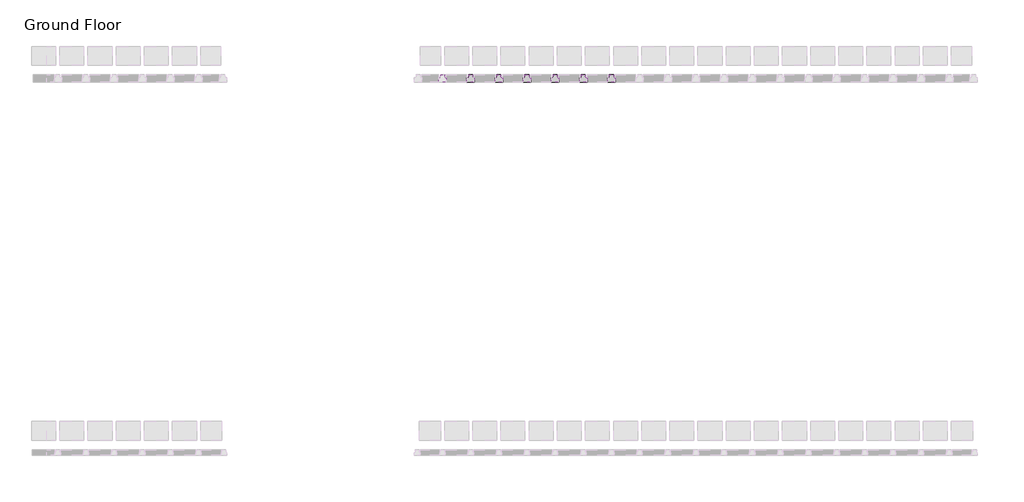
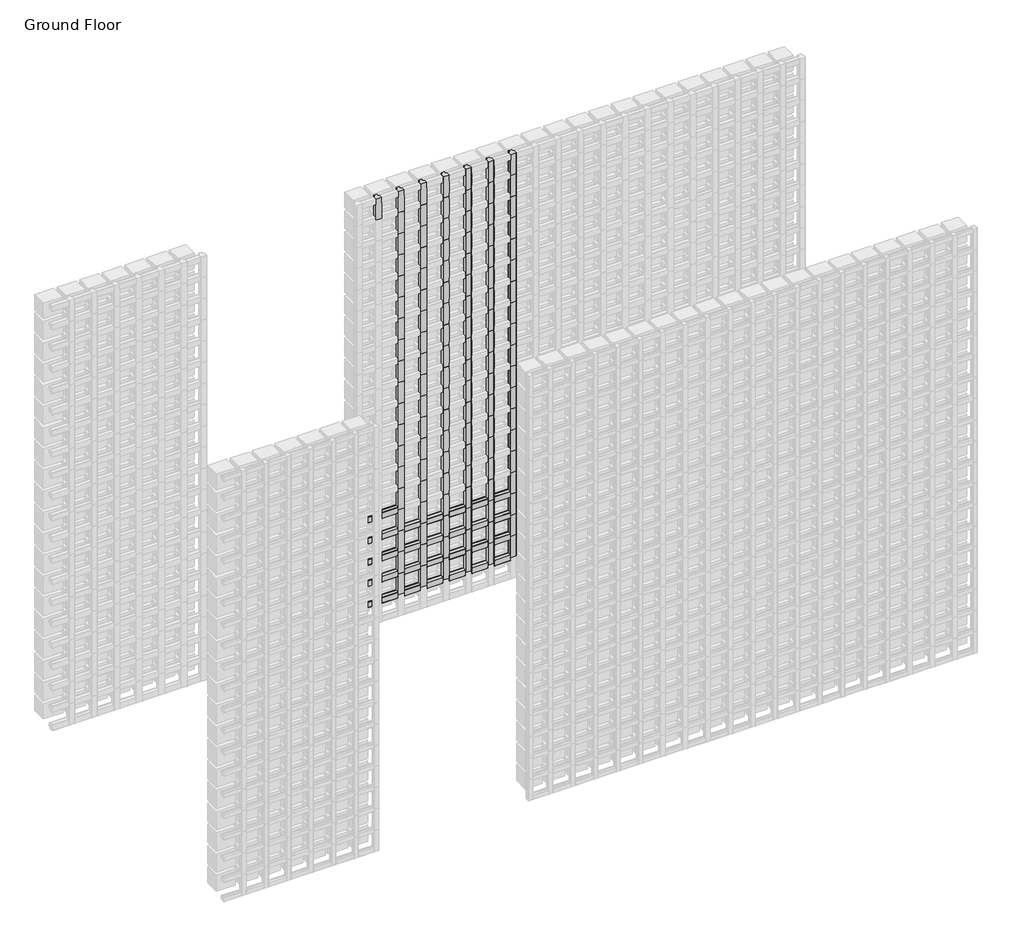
# One storey, part 119 of 350: 145 members.
"""IFC4 building model written with IfcOpenShell, lengths in millimetres."""

from ifc_helpers import new_model, si_unit, origin, place, context, project, spatial, transform, mapped, element, save
from components import rectangular_mullion_84e0df2e, rectangular_mullion_196cc38a, rectangular_mullion_c1c7f7ba

model = new_model("IFC4")

# Units and contexts
model_context = context("Model", 3, world=origin())
ifc_project = project(units=[si_unit("LENGTHUNIT", "METRE", prefix="MILLI")], contexts=[model_context])

# Site, building, storey
site = spatial("IfcSite", under=ifc_project)
building = spatial("IfcBuilding", under=site)
storey = spatial("IfcBuildingStorey", under=building, Name="Ground Floor", Elevation=0.0)

# Members
placement = place(None, origin())
rectangular_mullion_shape = rectangular_mullion_84e0df2e(model_context)
element("IfcMember", 1, ObjectType="Rectangular Mullion : Batten_Timber_Modinex_Austratus_Grid_Fin_40x40_Blackbutt", at=placement, inside=storey, context=model_context, shape_type="MappedRepresentation", body=[
    mapped(rectangular_mullion_shape, transform((6216.4361642, 44968.2978302, 150.0), x_axis=(1.0, 0.0, 0.0), y_axis=(0.0, -1.0, 0.0), z_axis=(0.0, 0.0, -1.0))),
])
element("IfcMember", 2, ObjectType="Rectangular Mullion : Batten_Timber_Modinex_Austratus_Grid_Fin_40x40_Blackbutt", at=placement, inside=storey, context=model_context, shape_type="MappedRepresentation", body=[
    mapped(rectangular_mullion_shape, transform((6216.4361642, 44968.2978302, 300.0), x_axis=(1.0, 0.0, 0.0), y_axis=(0.0, -1.0, 0.0), z_axis=(0.0, 0.0, -1.0))),
])
element("IfcMember", 3, ObjectType="Rectangular Mullion : Batten_Timber_Modinex_Austratus_Grid_Fin_40x40_Blackbutt", at=placement, inside=storey, context=model_context, shape_type="MappedRepresentation", body=[
    mapped(rectangular_mullion_shape, transform((6216.4361642, 44968.2978302, 450.0), x_axis=(1.0, 0.0, 0.0), y_axis=(0.0, -1.0, 0.0), z_axis=(0.0, 0.0, -1.0))),
])
element("IfcMember", 4, ObjectType="Rectangular Mullion : Batten_Timber_Modinex_Austratus_Grid_Fin_40x40_Blackbutt", at=placement, inside=storey, context=model_context, shape_type="MappedRepresentation", body=[
    mapped(rectangular_mullion_shape, transform((6216.4361642, 44968.2978302, 600.0), x_axis=(1.0, 0.0, 0.0), y_axis=(0.0, -1.0, 0.0), z_axis=(0.0, 0.0, -1.0))),
])
element("IfcMember", 5, ObjectType="Rectangular Mullion : Batten_Timber_Modinex_Austratus_Grid_Fin_40x40_Blackbutt", at=placement, inside=storey, context=model_context, shape_type="MappedRepresentation", body=[
    mapped(rectangular_mullion_shape, transform((6216.4361642, 44968.2978302, 750.0), x_axis=(1.0, 0.0, 0.0), y_axis=(0.0, -1.0, 0.0), z_axis=(0.0, 0.0, -1.0))),
])
element("IfcMember", 6, ObjectType="Rectangular Mullion : Batten_Timber_Modinex_Austratus_Grid_Fin_40x40_Blackbutt", at=placement, inside=storey, context=model_context, shape_type="MappedRepresentation", body=[
    mapped(rectangular_mullion_shape, transform((6216.4361642, 44968.2978302, 900.0), x_axis=(1.0, 0.0, 0.0), y_axis=(0.0, -1.0, 0.0), z_axis=(0.0, 0.0, -1.0))),
])
element("IfcMember", 7, ObjectType="Rectangular Mullion : Batten_Timber_Modinex_Austratus_Grid_Fin_40x40_Blackbutt", at=placement, inside=storey, context=model_context, shape_type="MappedRepresentation", body=[
    mapped(rectangular_mullion_shape, transform((6216.4361642, 44968.2978302, 1050.0), x_axis=(1.0, 0.0, 0.0), y_axis=(0.0, -1.0, 0.0), z_axis=(0.0, 0.0, -1.0))),
])
element("IfcMember", 8, ObjectType="Rectangular Mullion : Batten_Timber_Modinex_Austratus_Grid_Fin_40x40_Blackbutt", at=placement, inside=storey, context=model_context, shape_type="MappedRepresentation", body=[
    mapped(rectangular_mullion_shape, transform((6216.4361642, 44968.2978302, 1200.0), x_axis=(1.0, 0.0, 0.0), y_axis=(0.0, -1.0, 0.0), z_axis=(0.0, 0.0, -1.0))),
])
element("IfcMember", 9, ObjectType="Rectangular Mullion : Batten_Timber_Modinex_Austratus_Grid_Fin_40x40_Blackbutt", at=placement, inside=storey, context=model_context, shape_type="MappedRepresentation", body=[
    mapped(rectangular_mullion_shape, transform((6216.4361642, 44968.2978302, 1350.0), x_axis=(1.0, 0.0, 0.0), y_axis=(0.0, -1.0, 0.0), z_axis=(0.0, 0.0, -1.0))),
])
element("IfcMember", 10, ObjectType="Rectangular Mullion : Batten_Timber_Modinex_Austratus_Grid_Fin_40x40_Blackbutt", at=placement, inside=storey, context=model_context, shape_type="MappedRepresentation", body=[
    mapped(rectangular_mullion_shape, transform((6216.4361642, 44968.2978302, 1500.0), x_axis=(1.0, 0.0, 0.0), y_axis=(0.0, -1.0, 0.0), z_axis=(0.0, 0.0, -1.0))),
])
element("IfcMember", 11, ObjectType="Rectangular Mullion : Batten_Timber_Modinex_Austratus_Grid_Fin_40x40_Blackbutt", at=placement, inside=storey, context=model_context, shape_type="MappedRepresentation", body=[
    mapped(rectangular_mullion_shape, transform((6216.4361642, 44968.2978302, 1650.0), x_axis=(1.0, 0.0, 0.0), y_axis=(0.0, -1.0, 0.0), z_axis=(0.0, 0.0, -1.0))),
])
element("IfcMember", 12, ObjectType="Rectangular Mullion : Batten_Timber_Modinex_Austratus_Grid_Fin_40x40_Blackbutt", at=placement, inside=storey, context=model_context, shape_type="MappedRepresentation", body=[
    mapped(rectangular_mullion_shape, transform((6216.4361642, 44968.2978302, 1800.0), x_axis=(1.0, 0.0, 0.0), y_axis=(0.0, -1.0, 0.0), z_axis=(0.0, 0.0, -1.0))),
])
element("IfcMember", 13, ObjectType="Rectangular Mullion : Batten_Timber_Modinex_Austratus_Grid_Fin_40x40_Blackbutt", at=placement, inside=storey, context=model_context, shape_type="MappedRepresentation", body=[
    mapped(rectangular_mullion_shape, transform((6216.4361642, 44968.2978302, 1950.0), x_axis=(1.0, 0.0, 0.0), y_axis=(0.0, -1.0, 0.0), z_axis=(0.0, 0.0, -1.0))),
])
element("IfcMember", 14, ObjectType="Rectangular Mullion : Batten_Timber_Modinex_Austratus_Grid_Fin_40x40_Blackbutt", at=placement, inside=storey, context=model_context, shape_type="MappedRepresentation", body=[
    mapped(rectangular_mullion_shape, transform((6216.4361642, 44968.2978302, 2100.0), x_axis=(1.0, 0.0, 0.0), y_axis=(0.0, -1.0, 0.0), z_axis=(0.0, 0.0, -1.0))),
])
element("IfcMember", 15, ObjectType="Rectangular Mullion : Batten_Timber_Modinex_Austratus_Grid_Fin_40x40_Blackbutt", at=placement, inside=storey, context=model_context, shape_type="MappedRepresentation", body=[
    mapped(rectangular_mullion_shape, transform((6216.4361642, 44968.2978302, 2250.0), x_axis=(1.0, 0.0, 0.0), y_axis=(0.0, -1.0, 0.0), z_axis=(0.0, 0.0, -1.0))),
])
element("IfcMember", 16, ObjectType="Rectangular Mullion : Batten_Timber_Modinex_Austratus_Grid_Fin_40x40_Blackbutt", at=placement, inside=storey, context=model_context, shape_type="MappedRepresentation", body=[
    mapped(rectangular_mullion_shape, transform((6216.4361642, 44968.2978302, 2400.0), x_axis=(1.0, 0.0, 0.0), y_axis=(0.0, -1.0, 0.0), z_axis=(0.0, 0.0, -1.0))),
])
element("IfcMember", 17, ObjectType="Rectangular Mullion : Batten_Timber_Modinex_Austratus_Grid_Fin_40x40_Blackbutt", at=placement, inside=storey, context=model_context, shape_type="MappedRepresentation", body=[
    mapped(rectangular_mullion_shape, transform((6216.4361642, 44968.2978302, 2550.0), x_axis=(1.0, 0.0, 0.0), y_axis=(0.0, -1.0, 0.0), z_axis=(0.0, 0.0, -1.0))),
])
element("IfcMember", 18, ObjectType="Rectangular Mullion : Batten_Timber_Modinex_Austratus_Grid_Fin_40x40_Blackbutt", at=placement, inside=storey, context=model_context, shape_type="MappedRepresentation", body=[
    mapped(rectangular_mullion_shape, transform((6216.4361642, 44968.2978302, 2700.0), x_axis=(1.0, 0.0, 0.0), y_axis=(0.0, -1.0, 0.0), z_axis=(0.0, 0.0, -1.0))),
])
element("IfcMember", 19, ObjectType="Rectangular Mullion : Batten_Timber_Modinex_Austratus_Grid_Fin_40x40_Blackbutt", at=placement, inside=storey, context=model_context, shape_type="MappedRepresentation", body=[
    mapped(rectangular_mullion_shape, transform((6366.4361642, 44968.2978302, 150.0), x_axis=(1.0, 0.0, 0.0), y_axis=(0.0, -1.0, 0.0), z_axis=(0.0, 0.0, -1.0))),
])
element("IfcMember", 20, ObjectType="Rectangular Mullion : Batten_Timber_Modinex_Austratus_Grid_Fin_40x40_Blackbutt", at=placement, inside=storey, context=model_context, shape_type="MappedRepresentation", body=[
    mapped(rectangular_mullion_shape, transform((6366.4361642, 44968.2978302, 300.0), x_axis=(1.0, 0.0, 0.0), y_axis=(0.0, -1.0, 0.0), z_axis=(0.0, 0.0, -1.0))),
])
element("IfcMember", 21, ObjectType="Rectangular Mullion : Batten_Timber_Modinex_Austratus_Grid_Fin_40x40_Blackbutt", at=placement, inside=storey, context=model_context, shape_type="MappedRepresentation", body=[
    mapped(rectangular_mullion_shape, transform((6366.4361642, 44968.2978302, 450.0), x_axis=(1.0, 0.0, 0.0), y_axis=(0.0, -1.0, 0.0), z_axis=(0.0, 0.0, -1.0))),
])
element("IfcMember", 22, ObjectType="Rectangular Mullion : Batten_Timber_Modinex_Austratus_Grid_Fin_40x40_Blackbutt", at=placement, inside=storey, context=model_context, shape_type="MappedRepresentation", body=[
    mapped(rectangular_mullion_shape, transform((6366.4361642, 44968.2978302, 600.0), x_axis=(1.0, 0.0, 0.0), y_axis=(0.0, -1.0, 0.0), z_axis=(0.0, 0.0, -1.0))),
])
element("IfcMember", 23, ObjectType="Rectangular Mullion : Batten_Timber_Modinex_Austratus_Grid_Fin_40x40_Blackbutt", at=placement, inside=storey, context=model_context, shape_type="MappedRepresentation", body=[
    mapped(rectangular_mullion_shape, transform((6366.4361642, 44968.2978302, 750.0), x_axis=(1.0, 0.0, 0.0), y_axis=(0.0, -1.0, 0.0), z_axis=(0.0, 0.0, -1.0))),
])
element("IfcMember", 24, ObjectType="Rectangular Mullion : Batten_Timber_Modinex_Austratus_Grid_Fin_40x40_Blackbutt", at=placement, inside=storey, context=model_context, shape_type="MappedRepresentation", body=[
    mapped(rectangular_mullion_shape, transform((6366.4361642, 44968.2978302, 900.0), x_axis=(1.0, 0.0, 0.0), y_axis=(0.0, -1.0, 0.0), z_axis=(0.0, 0.0, -1.0))),
])
element("IfcMember", 25, ObjectType="Rectangular Mullion : Batten_Timber_Modinex_Austratus_Grid_Fin_40x40_Blackbutt", at=placement, inside=storey, context=model_context, shape_type="MappedRepresentation", body=[
    mapped(rectangular_mullion_shape, transform((6366.4361642, 44968.2978302, 1050.0), x_axis=(1.0, 0.0, 0.0), y_axis=(0.0, -1.0, 0.0), z_axis=(0.0, 0.0, -1.0))),
])
element("IfcMember", 26, ObjectType="Rectangular Mullion : Batten_Timber_Modinex_Austratus_Grid_Fin_40x40_Blackbutt", at=placement, inside=storey, context=model_context, shape_type="MappedRepresentation", body=[
    mapped(rectangular_mullion_shape, transform((6366.4361642, 44968.2978302, 1200.0), x_axis=(1.0, 0.0, 0.0), y_axis=(0.0, -1.0, 0.0), z_axis=(0.0, 0.0, -1.0))),
])
element("IfcMember", 27, ObjectType="Rectangular Mullion : Batten_Timber_Modinex_Austratus_Grid_Fin_40x40_Blackbutt", at=placement, inside=storey, context=model_context, shape_type="MappedRepresentation", body=[
    mapped(rectangular_mullion_shape, transform((6366.4361642, 44968.2978302, 1350.0), x_axis=(1.0, 0.0, 0.0), y_axis=(0.0, -1.0, 0.0), z_axis=(0.0, 0.0, -1.0))),
])
element("IfcMember", 28, ObjectType="Rectangular Mullion : Batten_Timber_Modinex_Austratus_Grid_Fin_40x40_Blackbutt", at=placement, inside=storey, context=model_context, shape_type="MappedRepresentation", body=[
    mapped(rectangular_mullion_shape, transform((6366.4361642, 44968.2978302, 1500.0), x_axis=(1.0, 0.0, 0.0), y_axis=(0.0, -1.0, 0.0), z_axis=(0.0, 0.0, -1.0))),
])
element("IfcMember", 29, ObjectType="Rectangular Mullion : Batten_Timber_Modinex_Austratus_Grid_Fin_40x40_Blackbutt", at=placement, inside=storey, context=model_context, shape_type="MappedRepresentation", body=[
    mapped(rectangular_mullion_shape, transform((6366.4361642, 44968.2978302, 1650.0), x_axis=(1.0, 0.0, 0.0), y_axis=(0.0, -1.0, 0.0), z_axis=(0.0, 0.0, -1.0))),
])
element("IfcMember", 30, ObjectType="Rectangular Mullion : Batten_Timber_Modinex_Austratus_Grid_Fin_40x40_Blackbutt", at=placement, inside=storey, context=model_context, shape_type="MappedRepresentation", body=[
    mapped(rectangular_mullion_shape, transform((6366.4361642, 44968.2978302, 1800.0), x_axis=(1.0, 0.0, 0.0), y_axis=(0.0, -1.0, 0.0), z_axis=(0.0, 0.0, -1.0))),
])
element("IfcMember", 31, ObjectType="Rectangular Mullion : Batten_Timber_Modinex_Austratus_Grid_Fin_40x40_Blackbutt", at=placement, inside=storey, context=model_context, shape_type="MappedRepresentation", body=[
    mapped(rectangular_mullion_shape, transform((6366.4361642, 44968.2978302, 1950.0), x_axis=(1.0, 0.0, 0.0), y_axis=(0.0, -1.0, 0.0), z_axis=(0.0, 0.0, -1.0))),
])
element("IfcMember", 32, ObjectType="Rectangular Mullion : Batten_Timber_Modinex_Austratus_Grid_Fin_40x40_Blackbutt", at=placement, inside=storey, context=model_context, shape_type="MappedRepresentation", body=[
    mapped(rectangular_mullion_shape, transform((6366.4361642, 44968.2978302, 2100.0), x_axis=(1.0, 0.0, 0.0), y_axis=(0.0, -1.0, 0.0), z_axis=(0.0, 0.0, -1.0))),
])
element("IfcMember", 33, ObjectType="Rectangular Mullion : Batten_Timber_Modinex_Austratus_Grid_Fin_40x40_Blackbutt", at=placement, inside=storey, context=model_context, shape_type="MappedRepresentation", body=[
    mapped(rectangular_mullion_shape, transform((6366.4361642, 44968.2978302, 2250.0), x_axis=(1.0, 0.0, 0.0), y_axis=(0.0, -1.0, 0.0), z_axis=(0.0, 0.0, -1.0))),
])
element("IfcMember", 34, ObjectType="Rectangular Mullion : Batten_Timber_Modinex_Austratus_Grid_Fin_40x40_Blackbutt", at=placement, inside=storey, context=model_context, shape_type="MappedRepresentation", body=[
    mapped(rectangular_mullion_shape, transform((6366.4361642, 44968.2978302, 2400.0), x_axis=(1.0, 0.0, 0.0), y_axis=(0.0, -1.0, 0.0), z_axis=(0.0, 0.0, -1.0))),
])
element("IfcMember", 35, ObjectType="Rectangular Mullion : Batten_Timber_Modinex_Austratus_Grid_Fin_40x40_Blackbutt", at=placement, inside=storey, context=model_context, shape_type="MappedRepresentation", body=[
    mapped(rectangular_mullion_shape, transform((6366.4361642, 44968.2978302, 2550.0), x_axis=(1.0, 0.0, 0.0), y_axis=(0.0, -1.0, 0.0), z_axis=(0.0, 0.0, -1.0))),
])
element("IfcMember", 36, ObjectType="Rectangular Mullion : Batten_Timber_Modinex_Austratus_Grid_Fin_40x40_Blackbutt", at=placement, inside=storey, context=model_context, shape_type="MappedRepresentation", body=[
    mapped(rectangular_mullion_shape, transform((6366.4361642, 44968.2978302, 2700.0), x_axis=(1.0, 0.0, 0.0), y_axis=(0.0, -1.0, 0.0), z_axis=(0.0, 0.0, -1.0))),
])
element("IfcMember", 37, ObjectType="Rectangular Mullion : Batten_Timber_Modinex_Austratus_Grid_Fin_40x40_Blackbutt", at=placement, inside=storey, context=model_context, shape_type="MappedRepresentation", body=[
    mapped(rectangular_mullion_shape, transform((6516.4361642, 44968.2978302, 150.0), x_axis=(1.0, 0.0, 0.0), y_axis=(0.0, -1.0, 0.0), z_axis=(0.0, 0.0, -1.0))),
])
element("IfcMember", 38, ObjectType="Rectangular Mullion : Batten_Timber_Modinex_Austratus_Grid_Fin_40x40_Blackbutt", at=placement, inside=storey, context=model_context, shape_type="MappedRepresentation", body=[
    mapped(rectangular_mullion_shape, transform((6516.4361642, 44968.2978302, 300.0), x_axis=(1.0, 0.0, 0.0), y_axis=(0.0, -1.0, 0.0), z_axis=(0.0, 0.0, -1.0))),
])
element("IfcMember", 39, ObjectType="Rectangular Mullion : Batten_Timber_Modinex_Austratus_Grid_Fin_40x40_Blackbutt", at=placement, inside=storey, context=model_context, shape_type="MappedRepresentation", body=[
    mapped(rectangular_mullion_shape, transform((6516.4361642, 44968.2978302, 450.0), x_axis=(1.0, 0.0, 0.0), y_axis=(0.0, -1.0, 0.0), z_axis=(0.0, 0.0, -1.0))),
])
element("IfcMember", 40, ObjectType="Rectangular Mullion : Batten_Timber_Modinex_Austratus_Grid_Fin_40x40_Blackbutt", at=placement, inside=storey, context=model_context, shape_type="MappedRepresentation", body=[
    mapped(rectangular_mullion_shape, transform((6516.4361642, 44968.2978302, 600.0), x_axis=(1.0, 0.0, 0.0), y_axis=(0.0, -1.0, 0.0), z_axis=(0.0, 0.0, -1.0))),
])
element("IfcMember", 41, ObjectType="Rectangular Mullion : Batten_Timber_Modinex_Austratus_Grid_Fin_40x40_Blackbutt", at=placement, inside=storey, context=model_context, shape_type="MappedRepresentation", body=[
    mapped(rectangular_mullion_shape, transform((6516.4361642, 44968.2978302, 750.0), x_axis=(1.0, 0.0, 0.0), y_axis=(0.0, -1.0, 0.0), z_axis=(0.0, 0.0, -1.0))),
])
element("IfcMember", 42, ObjectType="Rectangular Mullion : Batten_Timber_Modinex_Austratus_Grid_Fin_40x40_Blackbutt", at=placement, inside=storey, context=model_context, shape_type="MappedRepresentation", body=[
    mapped(rectangular_mullion_shape, transform((6516.4361642, 44968.2978302, 900.0), x_axis=(1.0, 0.0, 0.0), y_axis=(0.0, -1.0, 0.0), z_axis=(0.0, 0.0, -1.0))),
])
element("IfcMember", 43, ObjectType="Rectangular Mullion : Batten_Timber_Modinex_Austratus_Grid_Fin_40x40_Blackbutt", at=placement, inside=storey, context=model_context, shape_type="MappedRepresentation", body=[
    mapped(rectangular_mullion_shape, transform((6516.4361642, 44968.2978302, 1050.0), x_axis=(1.0, 0.0, 0.0), y_axis=(0.0, -1.0, 0.0), z_axis=(0.0, 0.0, -1.0))),
])
element("IfcMember", 44, ObjectType="Rectangular Mullion : Batten_Timber_Modinex_Austratus_Grid_Fin_40x40_Blackbutt", at=placement, inside=storey, context=model_context, shape_type="MappedRepresentation", body=[
    mapped(rectangular_mullion_shape, transform((6516.4361642, 44968.2978302, 1200.0), x_axis=(1.0, 0.0, 0.0), y_axis=(0.0, -1.0, 0.0), z_axis=(0.0, 0.0, -1.0))),
])
element("IfcMember", 45, ObjectType="Rectangular Mullion : Batten_Timber_Modinex_Austratus_Grid_Fin_40x40_Blackbutt", at=placement, inside=storey, context=model_context, shape_type="MappedRepresentation", body=[
    mapped(rectangular_mullion_shape, transform((6516.4361642, 44968.2978302, 1350.0), x_axis=(1.0, 0.0, 0.0), y_axis=(0.0, -1.0, 0.0), z_axis=(0.0, 0.0, -1.0))),
])
element("IfcMember", 46, ObjectType="Rectangular Mullion : Batten_Timber_Modinex_Austratus_Grid_Fin_40x40_Blackbutt", at=placement, inside=storey, context=model_context, shape_type="MappedRepresentation", body=[
    mapped(rectangular_mullion_shape, transform((6516.4361642, 44968.2978302, 1500.0), x_axis=(1.0, 0.0, 0.0), y_axis=(0.0, -1.0, 0.0), z_axis=(0.0, 0.0, -1.0))),
])
element("IfcMember", 47, ObjectType="Rectangular Mullion : Batten_Timber_Modinex_Austratus_Grid_Fin_40x40_Blackbutt", at=placement, inside=storey, context=model_context, shape_type="MappedRepresentation", body=[
    mapped(rectangular_mullion_shape, transform((6516.4361642, 44968.2978302, 1650.0), x_axis=(1.0, 0.0, 0.0), y_axis=(0.0, -1.0, 0.0), z_axis=(0.0, 0.0, -1.0))),
])
element("IfcMember", 48, ObjectType="Rectangular Mullion : Batten_Timber_Modinex_Austratus_Grid_Fin_40x40_Blackbutt", at=placement, inside=storey, context=model_context, shape_type="MappedRepresentation", body=[
    mapped(rectangular_mullion_shape, transform((6516.4361642, 44968.2978302, 1800.0), x_axis=(1.0, 0.0, 0.0), y_axis=(0.0, -1.0, 0.0), z_axis=(0.0, 0.0, -1.0))),
])
element("IfcMember", 49, ObjectType="Rectangular Mullion : Batten_Timber_Modinex_Austratus_Grid_Fin_40x40_Blackbutt", at=placement, inside=storey, context=model_context, shape_type="MappedRepresentation", body=[
    mapped(rectangular_mullion_shape, transform((6516.4361642, 44968.2978302, 1950.0), x_axis=(1.0, 0.0, 0.0), y_axis=(0.0, -1.0, 0.0), z_axis=(0.0, 0.0, -1.0))),
])
element("IfcMember", 50, ObjectType="Rectangular Mullion : Batten_Timber_Modinex_Austratus_Grid_Fin_40x40_Blackbutt", at=placement, inside=storey, context=model_context, shape_type="MappedRepresentation", body=[
    mapped(rectangular_mullion_shape, transform((6516.4361642, 44968.2978302, 2100.0), x_axis=(1.0, 0.0, 0.0), y_axis=(0.0, -1.0, 0.0), z_axis=(0.0, 0.0, -1.0))),
])
element("IfcMember", 51, ObjectType="Rectangular Mullion : Batten_Timber_Modinex_Austratus_Grid_Fin_40x40_Blackbutt", at=placement, inside=storey, context=model_context, shape_type="MappedRepresentation", body=[
    mapped(rectangular_mullion_shape, transform((6516.4361642, 44968.2978302, 2250.0), x_axis=(1.0, 0.0, 0.0), y_axis=(0.0, -1.0, 0.0), z_axis=(0.0, 0.0, -1.0))),
])
element("IfcMember", 52, ObjectType="Rectangular Mullion : Batten_Timber_Modinex_Austratus_Grid_Fin_40x40_Blackbutt", at=placement, inside=storey, context=model_context, shape_type="MappedRepresentation", body=[
    mapped(rectangular_mullion_shape, transform((6516.4361642, 44968.2978302, 2400.0), x_axis=(1.0, 0.0, 0.0), y_axis=(0.0, -1.0, 0.0), z_axis=(0.0, 0.0, -1.0))),
])
element("IfcMember", 53, ObjectType="Rectangular Mullion : Batten_Timber_Modinex_Austratus_Grid_Fin_40x40_Blackbutt", at=placement, inside=storey, context=model_context, shape_type="MappedRepresentation", body=[
    mapped(rectangular_mullion_shape, transform((6516.4361642, 44968.2978302, 2550.0), x_axis=(1.0, 0.0, 0.0), y_axis=(0.0, -1.0, 0.0), z_axis=(0.0, 0.0, -1.0))),
])
element("IfcMember", 54, ObjectType="Rectangular Mullion : Batten_Timber_Modinex_Austratus_Grid_Fin_40x40_Blackbutt", at=placement, inside=storey, context=model_context, shape_type="MappedRepresentation", body=[
    mapped(rectangular_mullion_shape, transform((6516.4361642, 44968.2978302, 2700.0), x_axis=(1.0, 0.0, 0.0), y_axis=(0.0, -1.0, 0.0), z_axis=(0.0, 0.0, -1.0))),
])
element("IfcMember", 55, ObjectType="Rectangular Mullion : Batten_Timber_Modinex_Austratus_Grid_Fin_40x40_Blackbutt", at=placement, inside=storey, context=model_context, shape_type="MappedRepresentation", body=[
    mapped(rectangular_mullion_shape, transform((6666.4361642, 44968.2978302, 150.0), x_axis=(1.0, 0.0, 0.0), y_axis=(0.0, -1.0, 0.0), z_axis=(0.0, 0.0, -1.0))),
])
element("IfcMember", 56, ObjectType="Rectangular Mullion : Batten_Timber_Modinex_Austratus_Grid_Fin_40x40_Blackbutt", at=placement, inside=storey, context=model_context, shape_type="MappedRepresentation", body=[
    mapped(rectangular_mullion_shape, transform((6666.4361642, 44968.2978302, 300.0), x_axis=(1.0, 0.0, 0.0), y_axis=(0.0, -1.0, 0.0), z_axis=(0.0, 0.0, -1.0))),
])
element("IfcMember", 57, ObjectType="Rectangular Mullion : Batten_Timber_Modinex_Austratus_Grid_Fin_40x40_Blackbutt", at=placement, inside=storey, context=model_context, shape_type="MappedRepresentation", body=[
    mapped(rectangular_mullion_shape, transform((6666.4361642, 44968.2978302, 450.0), x_axis=(1.0, 0.0, 0.0), y_axis=(0.0, -1.0, 0.0), z_axis=(0.0, 0.0, -1.0))),
])
element("IfcMember", 58, ObjectType="Rectangular Mullion : Batten_Timber_Modinex_Austratus_Grid_Fin_40x40_Blackbutt", at=placement, inside=storey, context=model_context, shape_type="MappedRepresentation", body=[
    mapped(rectangular_mullion_shape, transform((6666.4361642, 44968.2978302, 600.0), x_axis=(1.0, 0.0, 0.0), y_axis=(0.0, -1.0, 0.0), z_axis=(0.0, 0.0, -1.0))),
])
element("IfcMember", 59, ObjectType="Rectangular Mullion : Batten_Timber_Modinex_Austratus_Grid_Fin_40x40_Blackbutt", at=placement, inside=storey, context=model_context, shape_type="MappedRepresentation", body=[
    mapped(rectangular_mullion_shape, transform((6666.4361642, 44968.2978302, 750.0), x_axis=(1.0, 0.0, 0.0), y_axis=(0.0, -1.0, 0.0), z_axis=(0.0, 0.0, -1.0))),
])
element("IfcMember", 60, ObjectType="Rectangular Mullion : Batten_Timber_Modinex_Austratus_Grid_Fin_40x40_Blackbutt", at=placement, inside=storey, context=model_context, shape_type="MappedRepresentation", body=[
    mapped(rectangular_mullion_shape, transform((6666.4361642, 44968.2978302, 900.0), x_axis=(1.0, 0.0, 0.0), y_axis=(0.0, -1.0, 0.0), z_axis=(0.0, 0.0, -1.0))),
])
element("IfcMember", 61, ObjectType="Rectangular Mullion : Batten_Timber_Modinex_Austratus_Grid_Fin_40x40_Blackbutt", at=placement, inside=storey, context=model_context, shape_type="MappedRepresentation", body=[
    mapped(rectangular_mullion_shape, transform((6666.4361642, 44968.2978302, 1050.0), x_axis=(1.0, 0.0, 0.0), y_axis=(0.0, -1.0, 0.0), z_axis=(0.0, 0.0, -1.0))),
])
element("IfcMember", 62, ObjectType="Rectangular Mullion : Batten_Timber_Modinex_Austratus_Grid_Fin_40x40_Blackbutt", at=placement, inside=storey, context=model_context, shape_type="MappedRepresentation", body=[
    mapped(rectangular_mullion_shape, transform((6666.4361642, 44968.2978302, 1200.0), x_axis=(1.0, 0.0, 0.0), y_axis=(0.0, -1.0, 0.0), z_axis=(0.0, 0.0, -1.0))),
])
element("IfcMember", 63, ObjectType="Rectangular Mullion : Batten_Timber_Modinex_Austratus_Grid_Fin_40x40_Blackbutt", at=placement, inside=storey, context=model_context, shape_type="MappedRepresentation", body=[
    mapped(rectangular_mullion_shape, transform((6666.4361642, 44968.2978302, 1350.0), x_axis=(1.0, 0.0, 0.0), y_axis=(0.0, -1.0, 0.0), z_axis=(0.0, 0.0, -1.0))),
])
element("IfcMember", 64, ObjectType="Rectangular Mullion : Batten_Timber_Modinex_Austratus_Grid_Fin_40x40_Blackbutt", at=placement, inside=storey, context=model_context, shape_type="MappedRepresentation", body=[
    mapped(rectangular_mullion_shape, transform((6666.4361642, 44968.2978302, 1500.0), x_axis=(1.0, 0.0, 0.0), y_axis=(0.0, -1.0, 0.0), z_axis=(0.0, 0.0, -1.0))),
])
element("IfcMember", 65, ObjectType="Rectangular Mullion : Batten_Timber_Modinex_Austratus_Grid_Fin_40x40_Blackbutt", at=placement, inside=storey, context=model_context, shape_type="MappedRepresentation", body=[
    mapped(rectangular_mullion_shape, transform((6666.4361642, 44968.2978302, 1650.0), x_axis=(1.0, 0.0, 0.0), y_axis=(0.0, -1.0, 0.0), z_axis=(0.0, 0.0, -1.0))),
])
element("IfcMember", 66, ObjectType="Rectangular Mullion : Batten_Timber_Modinex_Austratus_Grid_Fin_40x40_Blackbutt", at=placement, inside=storey, context=model_context, shape_type="MappedRepresentation", body=[
    mapped(rectangular_mullion_shape, transform((6666.4361642, 44968.2978302, 1800.0), x_axis=(1.0, 0.0, 0.0), y_axis=(0.0, -1.0, 0.0), z_axis=(0.0, 0.0, -1.0))),
])
element("IfcMember", 67, ObjectType="Rectangular Mullion : Batten_Timber_Modinex_Austratus_Grid_Fin_40x40_Blackbutt", at=placement, inside=storey, context=model_context, shape_type="MappedRepresentation", body=[
    mapped(rectangular_mullion_shape, transform((6666.4361642, 44968.2978302, 1950.0), x_axis=(1.0, 0.0, 0.0), y_axis=(0.0, -1.0, 0.0), z_axis=(0.0, 0.0, -1.0))),
])
element("IfcMember", 68, ObjectType="Rectangular Mullion : Batten_Timber_Modinex_Austratus_Grid_Fin_40x40_Blackbutt", at=placement, inside=storey, context=model_context, shape_type="MappedRepresentation", body=[
    mapped(rectangular_mullion_shape, transform((6666.4361642, 44968.2978302, 2100.0), x_axis=(1.0, 0.0, 0.0), y_axis=(0.0, -1.0, 0.0), z_axis=(0.0, 0.0, -1.0))),
])
element("IfcMember", 69, ObjectType="Rectangular Mullion : Batten_Timber_Modinex_Austratus_Grid_Fin_40x40_Blackbutt", at=placement, inside=storey, context=model_context, shape_type="MappedRepresentation", body=[
    mapped(rectangular_mullion_shape, transform((6666.4361642, 44968.2978302, 2250.0), x_axis=(1.0, 0.0, 0.0), y_axis=(0.0, -1.0, 0.0), z_axis=(0.0, 0.0, -1.0))),
])
element("IfcMember", 70, ObjectType="Rectangular Mullion : Batten_Timber_Modinex_Austratus_Grid_Fin_40x40_Blackbutt", at=placement, inside=storey, context=model_context, shape_type="MappedRepresentation", body=[
    mapped(rectangular_mullion_shape, transform((6666.4361642, 44968.2978302, 2400.0), x_axis=(1.0, 0.0, 0.0), y_axis=(0.0, -1.0, 0.0), z_axis=(0.0, 0.0, -1.0))),
])
element("IfcMember", 71, ObjectType="Rectangular Mullion : Batten_Timber_Modinex_Austratus_Grid_Fin_40x40_Blackbutt", at=placement, inside=storey, context=model_context, shape_type="MappedRepresentation", body=[
    mapped(rectangular_mullion_shape, transform((6666.4361642, 44968.2978302, 2550.0), x_axis=(1.0, 0.0, 0.0), y_axis=(0.0, -1.0, 0.0), z_axis=(0.0, 0.0, -1.0))),
])
element("IfcMember", 72, ObjectType="Rectangular Mullion : Batten_Timber_Modinex_Austratus_Grid_Fin_40x40_Blackbutt", at=placement, inside=storey, context=model_context, shape_type="MappedRepresentation", body=[
    mapped(rectangular_mullion_shape, transform((6666.4361642, 44968.2978302, 2700.0), x_axis=(1.0, 0.0, 0.0), y_axis=(0.0, -1.0, 0.0), z_axis=(0.0, 0.0, -1.0))),
])
element("IfcMember", 73, ObjectType="Rectangular Mullion : Batten_Timber_Modinex_Austratus_Grid_Fin_40x40_Blackbutt", at=placement, inside=storey, context=model_context, shape_type="MappedRepresentation", body=[
    mapped(rectangular_mullion_shape, transform((6816.4361642, 44968.2978302, 150.0), x_axis=(1.0, 0.0, 0.0), y_axis=(0.0, -1.0, 0.0), z_axis=(0.0, 0.0, -1.0))),
])
element("IfcMember", 74, ObjectType="Rectangular Mullion : Batten_Timber_Modinex_Austratus_Grid_Fin_40x40_Blackbutt", at=placement, inside=storey, context=model_context, shape_type="MappedRepresentation", body=[
    mapped(rectangular_mullion_shape, transform((6816.4361642, 44968.2978302, 300.0), x_axis=(1.0, 0.0, 0.0), y_axis=(0.0, -1.0, 0.0), z_axis=(0.0, 0.0, -1.0))),
])
element("IfcMember", 75, ObjectType="Rectangular Mullion : Batten_Timber_Modinex_Austratus_Grid_Fin_40x40_Blackbutt", at=placement, inside=storey, context=model_context, shape_type="MappedRepresentation", body=[
    mapped(rectangular_mullion_shape, transform((6816.4361642, 44968.2978302, 450.0), x_axis=(1.0, 0.0, 0.0), y_axis=(0.0, -1.0, 0.0), z_axis=(0.0, 0.0, -1.0))),
])
element("IfcMember", 76, ObjectType="Rectangular Mullion : Batten_Timber_Modinex_Austratus_Grid_Fin_40x40_Blackbutt", at=placement, inside=storey, context=model_context, shape_type="MappedRepresentation", body=[
    mapped(rectangular_mullion_shape, transform((6816.4361642, 44968.2978302, 600.0), x_axis=(1.0, 0.0, 0.0), y_axis=(0.0, -1.0, 0.0), z_axis=(0.0, 0.0, -1.0))),
])
element("IfcMember", 77, ObjectType="Rectangular Mullion : Batten_Timber_Modinex_Austratus_Grid_Fin_40x40_Blackbutt", at=placement, inside=storey, context=model_context, shape_type="MappedRepresentation", body=[
    mapped(rectangular_mullion_shape, transform((6816.4361642, 44968.2978302, 750.0), x_axis=(1.0, 0.0, 0.0), y_axis=(0.0, -1.0, 0.0), z_axis=(0.0, 0.0, -1.0))),
])
element("IfcMember", 78, ObjectType="Rectangular Mullion : Batten_Timber_Modinex_Austratus_Grid_Fin_40x40_Blackbutt", at=placement, inside=storey, context=model_context, shape_type="MappedRepresentation", body=[
    mapped(rectangular_mullion_shape, transform((6816.4361642, 44968.2978302, 900.0), x_axis=(1.0, 0.0, 0.0), y_axis=(0.0, -1.0, 0.0), z_axis=(0.0, 0.0, -1.0))),
])
element("IfcMember", 79, ObjectType="Rectangular Mullion : Batten_Timber_Modinex_Austratus_Grid_Fin_40x40_Blackbutt", at=placement, inside=storey, context=model_context, shape_type="MappedRepresentation", body=[
    mapped(rectangular_mullion_shape, transform((6816.4361642, 44968.2978302, 1050.0), x_axis=(1.0, 0.0, 0.0), y_axis=(0.0, -1.0, 0.0), z_axis=(0.0, 0.0, -1.0))),
])
element("IfcMember", 80, ObjectType="Rectangular Mullion : Batten_Timber_Modinex_Austratus_Grid_Fin_40x40_Blackbutt", at=placement, inside=storey, context=model_context, shape_type="MappedRepresentation", body=[
    mapped(rectangular_mullion_shape, transform((6816.4361642, 44968.2978302, 1200.0), x_axis=(1.0, 0.0, 0.0), y_axis=(0.0, -1.0, 0.0), z_axis=(0.0, 0.0, -1.0))),
])
element("IfcMember", 81, ObjectType="Rectangular Mullion : Batten_Timber_Modinex_Austratus_Grid_Fin_40x40_Blackbutt", at=placement, inside=storey, context=model_context, shape_type="MappedRepresentation", body=[
    mapped(rectangular_mullion_shape, transform((6816.4361642, 44968.2978302, 1350.0), x_axis=(1.0, 0.0, 0.0), y_axis=(0.0, -1.0, 0.0), z_axis=(0.0, 0.0, -1.0))),
])
element("IfcMember", 82, ObjectType="Rectangular Mullion : Batten_Timber_Modinex_Austratus_Grid_Fin_40x40_Blackbutt", at=placement, inside=storey, context=model_context, shape_type="MappedRepresentation", body=[
    mapped(rectangular_mullion_shape, transform((6816.4361642, 44968.2978302, 1500.0), x_axis=(1.0, 0.0, 0.0), y_axis=(0.0, -1.0, 0.0), z_axis=(0.0, 0.0, -1.0))),
])
element("IfcMember", 83, ObjectType="Rectangular Mullion : Batten_Timber_Modinex_Austratus_Grid_Fin_40x40_Blackbutt", at=placement, inside=storey, context=model_context, shape_type="MappedRepresentation", body=[
    mapped(rectangular_mullion_shape, transform((6816.4361642, 44968.2978302, 1650.0), x_axis=(1.0, 0.0, 0.0), y_axis=(0.0, -1.0, 0.0), z_axis=(0.0, 0.0, -1.0))),
])
element("IfcMember", 84, ObjectType="Rectangular Mullion : Batten_Timber_Modinex_Austratus_Grid_Fin_40x40_Blackbutt", at=placement, inside=storey, context=model_context, shape_type="MappedRepresentation", body=[
    mapped(rectangular_mullion_shape, transform((6816.4361642, 44968.2978302, 1800.0), x_axis=(1.0, 0.0, 0.0), y_axis=(0.0, -1.0, 0.0), z_axis=(0.0, 0.0, -1.0))),
])
element("IfcMember", 85, ObjectType="Rectangular Mullion : Batten_Timber_Modinex_Austratus_Grid_Fin_40x40_Blackbutt", at=placement, inside=storey, context=model_context, shape_type="MappedRepresentation", body=[
    mapped(rectangular_mullion_shape, transform((6816.4361642, 44968.2978302, 1950.0), x_axis=(1.0, 0.0, 0.0), y_axis=(0.0, -1.0, 0.0), z_axis=(0.0, 0.0, -1.0))),
])
element("IfcMember", 86, ObjectType="Rectangular Mullion : Batten_Timber_Modinex_Austratus_Grid_Fin_40x40_Blackbutt", at=placement, inside=storey, context=model_context, shape_type="MappedRepresentation", body=[
    mapped(rectangular_mullion_shape, transform((6816.4361642, 44968.2978302, 2100.0), x_axis=(1.0, 0.0, 0.0), y_axis=(0.0, -1.0, 0.0), z_axis=(0.0, 0.0, -1.0))),
])
element("IfcMember", 87, ObjectType="Rectangular Mullion : Batten_Timber_Modinex_Austratus_Grid_Fin_40x40_Blackbutt", at=placement, inside=storey, context=model_context, shape_type="MappedRepresentation", body=[
    mapped(rectangular_mullion_shape, transform((6816.4361642, 44968.2978302, 2250.0), x_axis=(1.0, 0.0, 0.0), y_axis=(0.0, -1.0, 0.0), z_axis=(0.0, 0.0, -1.0))),
])
element("IfcMember", 88, ObjectType="Rectangular Mullion : Batten_Timber_Modinex_Austratus_Grid_Fin_40x40_Blackbutt", at=placement, inside=storey, context=model_context, shape_type="MappedRepresentation", body=[
    mapped(rectangular_mullion_shape, transform((6816.4361642, 44968.2978302, 2400.0), x_axis=(1.0, 0.0, 0.0), y_axis=(0.0, -1.0, 0.0), z_axis=(0.0, 0.0, -1.0))),
])
element("IfcMember", 89, ObjectType="Rectangular Mullion : Batten_Timber_Modinex_Austratus_Grid_Fin_40x40_Blackbutt", at=placement, inside=storey, context=model_context, shape_type="MappedRepresentation", body=[
    mapped(rectangular_mullion_shape, transform((6816.4361642, 44968.2978302, 2550.0), x_axis=(1.0, 0.0, 0.0), y_axis=(0.0, -1.0, 0.0), z_axis=(0.0, 0.0, -1.0))),
])
element("IfcMember", 90, ObjectType="Rectangular Mullion : Batten_Timber_Modinex_Austratus_Grid_Fin_40x40_Blackbutt", at=placement, inside=storey, context=model_context, shape_type="MappedRepresentation", body=[
    mapped(rectangular_mullion_shape, transform((6816.4361642, 44968.2978302, 2700.0), x_axis=(1.0, 0.0, 0.0), y_axis=(0.0, -1.0, 0.0), z_axis=(0.0, 0.0, -1.0))),
])
element("IfcMember", 91, ObjectType="Rectangular Mullion : Batten_Timber_Modinex_Austratus_Grid_Fin_40x40_Blackbutt", at=placement, inside=storey, context=model_context, shape_type="MappedRepresentation", body=[
    mapped(rectangular_mullion_shape, transform((6966.4361642, 44968.2978302, 150.0), x_axis=(1.0, 0.0, 0.0), y_axis=(0.0, -1.0, 0.0), z_axis=(0.0, 0.0, -1.0))),
])
element("IfcMember", 92, ObjectType="Rectangular Mullion : Batten_Timber_Modinex_Austratus_Grid_Fin_40x40_Blackbutt", at=placement, inside=storey, context=model_context, shape_type="MappedRepresentation", body=[
    mapped(rectangular_mullion_shape, transform((6966.4361642, 44968.2978302, 300.0), x_axis=(1.0, 0.0, 0.0), y_axis=(0.0, -1.0, 0.0), z_axis=(0.0, 0.0, -1.0))),
])
element("IfcMember", 93, ObjectType="Rectangular Mullion : Batten_Timber_Modinex_Austratus_Grid_Fin_40x40_Blackbutt", at=placement, inside=storey, context=model_context, shape_type="MappedRepresentation", body=[
    mapped(rectangular_mullion_shape, transform((6966.4361642, 44968.2978302, 450.0), x_axis=(1.0, 0.0, 0.0), y_axis=(0.0, -1.0, 0.0), z_axis=(0.0, 0.0, -1.0))),
])
element("IfcMember", 94, ObjectType="Rectangular Mullion : Batten_Timber_Modinex_Austratus_Grid_Fin_40x40_Blackbutt", at=placement, inside=storey, context=model_context, shape_type="MappedRepresentation", body=[
    mapped(rectangular_mullion_shape, transform((6966.4361642, 44968.2978302, 600.0), x_axis=(1.0, 0.0, 0.0), y_axis=(0.0, -1.0, 0.0), z_axis=(0.0, 0.0, -1.0))),
])
element("IfcMember", 95, ObjectType="Rectangular Mullion : Batten_Timber_Modinex_Austratus_Grid_Fin_40x40_Blackbutt", at=placement, inside=storey, context=model_context, shape_type="MappedRepresentation", body=[
    mapped(rectangular_mullion_shape, transform((6966.4361642, 44968.2978302, 750.0), x_axis=(1.0, 0.0, 0.0), y_axis=(0.0, -1.0, 0.0), z_axis=(0.0, 0.0, -1.0))),
])
element("IfcMember", 96, ObjectType="Rectangular Mullion : Batten_Timber_Modinex_Austratus_Grid_Fin_40x40_Blackbutt", at=placement, inside=storey, context=model_context, shape_type="MappedRepresentation", body=[
    mapped(rectangular_mullion_shape, transform((6966.4361642, 44968.2978302, 900.0), x_axis=(1.0, 0.0, 0.0), y_axis=(0.0, -1.0, 0.0), z_axis=(0.0, 0.0, -1.0))),
])
element("IfcMember", 97, ObjectType="Rectangular Mullion : Batten_Timber_Modinex_Austratus_Grid_Fin_40x40_Blackbutt", at=placement, inside=storey, context=model_context, shape_type="MappedRepresentation", body=[
    mapped(rectangular_mullion_shape, transform((6966.4361642, 44968.2978302, 1050.0), x_axis=(1.0, 0.0, 0.0), y_axis=(0.0, -1.0, 0.0), z_axis=(0.0, 0.0, -1.0))),
])
element("IfcMember", 98, ObjectType="Rectangular Mullion : Batten_Timber_Modinex_Austratus_Grid_Fin_40x40_Blackbutt", at=placement, inside=storey, context=model_context, shape_type="MappedRepresentation", body=[
    mapped(rectangular_mullion_shape, transform((6966.4361642, 44968.2978302, 1200.0), x_axis=(1.0, 0.0, 0.0), y_axis=(0.0, -1.0, 0.0), z_axis=(0.0, 0.0, -1.0))),
])
element("IfcMember", 99, ObjectType="Rectangular Mullion : Batten_Timber_Modinex_Austratus_Grid_Fin_40x40_Blackbutt", at=placement, inside=storey, context=model_context, shape_type="MappedRepresentation", body=[
    mapped(rectangular_mullion_shape, transform((6966.4361642, 44968.2978302, 1350.0), x_axis=(1.0, 0.0, 0.0), y_axis=(0.0, -1.0, 0.0), z_axis=(0.0, 0.0, -1.0))),
])
element("IfcMember", 100, ObjectType="Rectangular Mullion : Batten_Timber_Modinex_Austratus_Grid_Fin_40x40_Blackbutt", at=placement, inside=storey, context=model_context, shape_type="MappedRepresentation", body=[
    mapped(rectangular_mullion_shape, transform((6966.4361642, 44968.2978302, 1500.0), x_axis=(1.0, 0.0, 0.0), y_axis=(0.0, -1.0, 0.0), z_axis=(0.0, 0.0, -1.0))),
])
element("IfcMember", 101, ObjectType="Rectangular Mullion : Batten_Timber_Modinex_Austratus_Grid_Fin_40x40_Blackbutt", at=placement, inside=storey, context=model_context, shape_type="MappedRepresentation", body=[
    mapped(rectangular_mullion_shape, transform((6966.4361642, 44968.2978302, 1650.0), x_axis=(1.0, 0.0, 0.0), y_axis=(0.0, -1.0, 0.0), z_axis=(0.0, 0.0, -1.0))),
])
element("IfcMember", 102, ObjectType="Rectangular Mullion : Batten_Timber_Modinex_Austratus_Grid_Fin_40x40_Blackbutt", at=placement, inside=storey, context=model_context, shape_type="MappedRepresentation", body=[
    mapped(rectangular_mullion_shape, transform((6966.4361642, 44968.2978302, 1800.0), x_axis=(1.0, 0.0, 0.0), y_axis=(0.0, -1.0, 0.0), z_axis=(0.0, 0.0, -1.0))),
])
element("IfcMember", 103, ObjectType="Rectangular Mullion : Batten_Timber_Modinex_Austratus_Grid_Fin_40x40_Blackbutt", at=placement, inside=storey, context=model_context, shape_type="MappedRepresentation", body=[
    mapped(rectangular_mullion_shape, transform((6966.4361642, 44968.2978302, 1950.0), x_axis=(1.0, 0.0, 0.0), y_axis=(0.0, -1.0, 0.0), z_axis=(0.0, 0.0, -1.0))),
])
element("IfcMember", 104, ObjectType="Rectangular Mullion : Batten_Timber_Modinex_Austratus_Grid_Fin_40x40_Blackbutt", at=placement, inside=storey, context=model_context, shape_type="MappedRepresentation", body=[
    mapped(rectangular_mullion_shape, transform((6966.4361642, 44968.2978302, 2100.0), x_axis=(1.0, 0.0, 0.0), y_axis=(0.0, -1.0, 0.0), z_axis=(0.0, 0.0, -1.0))),
])
element("IfcMember", 105, ObjectType="Rectangular Mullion : Batten_Timber_Modinex_Austratus_Grid_Fin_40x40_Blackbutt", at=placement, inside=storey, context=model_context, shape_type="MappedRepresentation", body=[
    mapped(rectangular_mullion_shape, transform((6966.4361642, 44968.2978302, 2250.0), x_axis=(1.0, 0.0, 0.0), y_axis=(0.0, -1.0, 0.0), z_axis=(0.0, 0.0, -1.0))),
])
element("IfcMember", 106, ObjectType="Rectangular Mullion : Batten_Timber_Modinex_Austratus_Grid_Fin_40x40_Blackbutt", at=placement, inside=storey, context=model_context, shape_type="MappedRepresentation", body=[
    mapped(rectangular_mullion_shape, transform((6966.4361642, 44968.2978302, 2400.0), x_axis=(1.0, 0.0, 0.0), y_axis=(0.0, -1.0, 0.0), z_axis=(0.0, 0.0, -1.0))),
])
element("IfcMember", 107, ObjectType="Rectangular Mullion : Batten_Timber_Modinex_Austratus_Grid_Fin_40x40_Blackbutt", at=placement, inside=storey, context=model_context, shape_type="MappedRepresentation", body=[
    mapped(rectangular_mullion_shape, transform((6966.4361642, 44968.2978302, 2550.0), x_axis=(1.0, 0.0, 0.0), y_axis=(0.0, -1.0, 0.0), z_axis=(0.0, 0.0, -1.0))),
])
element("IfcMember", 108, ObjectType="Rectangular Mullion : Batten_Timber_Modinex_Austratus_Grid_Fin_40x40_Blackbutt", at=placement, inside=storey, context=model_context, shape_type="MappedRepresentation", body=[
    mapped(rectangular_mullion_shape, transform((6966.4361642, 44968.2978302, 2700.0), x_axis=(1.0, 0.0, 0.0), y_axis=(0.0, -1.0, 0.0), z_axis=(0.0, 0.0, -1.0))),
])
element("IfcMember", 109, ObjectType="Rectangular Mullion : Batten_Timber_Modinex_Austratus_Grid_Fin_40x40_Blackbutt", at=placement, inside=storey, context=model_context, shape_type="MappedRepresentation", body=[
    mapped(rectangular_mullion_shape, transform((6066.4361642, 44968.2978302, 2850.0), x_axis=(1.0, 0.0, 0.0), y_axis=(0.0, -1.0, 0.0), z_axis=(0.0, 0.0, -1.0))),
])
element("IfcMember", 110, ObjectType="Rectangular Mullion : Batten_Timber_Modinex_Austratus_Grid_Fin_40x40_Blackbutt", at=placement, inside=storey, context=model_context, shape_type="MappedRepresentation", body=[
    mapped(rectangular_mullion_shape, transform((6216.4361642, 44968.2978302, 2850.0), x_axis=(1.0, 0.0, 0.0), y_axis=(0.0, -1.0, 0.0), z_axis=(0.0, 0.0, -1.0))),
])
element("IfcMember", 111, ObjectType="Rectangular Mullion : Batten_Timber_Modinex_Austratus_Grid_Fin_40x40_Blackbutt", at=placement, inside=storey, context=model_context, shape_type="MappedRepresentation", body=[
    mapped(rectangular_mullion_shape, transform((6366.4361642, 44968.2978302, 2850.0), x_axis=(1.0, 0.0, 0.0), y_axis=(0.0, -1.0, 0.0), z_axis=(0.0, 0.0, -1.0))),
])
element("IfcMember", 112, ObjectType="Rectangular Mullion : Batten_Timber_Modinex_Austratus_Grid_Fin_40x40_Blackbutt", at=placement, inside=storey, context=model_context, shape_type="MappedRepresentation", body=[
    mapped(rectangular_mullion_shape, transform((6516.4361642, 44968.2978302, 2850.0), x_axis=(1.0, 0.0, 0.0), y_axis=(0.0, -1.0, 0.0), z_axis=(0.0, 0.0, -1.0))),
])
element("IfcMember", 113, ObjectType="Rectangular Mullion : Batten_Timber_Modinex_Austratus_Grid_Fin_40x40_Blackbutt", at=placement, inside=storey, context=model_context, shape_type="MappedRepresentation", body=[
    mapped(rectangular_mullion_shape, transform((6666.4361642, 44968.2978302, 2850.0), x_axis=(1.0, 0.0, 0.0), y_axis=(0.0, -1.0, 0.0), z_axis=(0.0, 0.0, -1.0))),
])
element("IfcMember", 114, ObjectType="Rectangular Mullion : Batten_Timber_Modinex_Austratus_Grid_Fin_40x40_Blackbutt", at=placement, inside=storey, context=model_context, shape_type="MappedRepresentation", body=[
    mapped(rectangular_mullion_shape, transform((6816.4361642, 44968.2978302, 2850.0), x_axis=(1.0, 0.0, 0.0), y_axis=(0.0, -1.0, 0.0), z_axis=(0.0, 0.0, -1.0))),
])
element("IfcMember", 115, ObjectType="Rectangular Mullion : Batten_Timber_Modinex_Austratus_Grid_Fin_40x40_Blackbutt", at=placement, inside=storey, context=model_context, shape_type="MappedRepresentation", body=[
    mapped(rectangular_mullion_shape, transform((6966.4361642, 44968.2978302, 2850.0), x_axis=(1.0, 0.0, 0.0), y_axis=(0.0, -1.0, 0.0), z_axis=(0.0, 0.0, -1.0))),
])
rectangular_mullion_2_shape = rectangular_mullion_196cc38a(model_context)
element("IfcMember", 116, ObjectType="Rectangular Mullion : Batten_Timber_Modinex_Austratus_Grid_Fin_40x40_Blackbutt", at=placement, inside=storey, context=model_context, shape_type="MappedRepresentation", body=[
    mapped(rectangular_mullion_2_shape, transform((6046.4361642, 44968.2978302, 150.0), x_axis=(0.0, 0.0, 1.0), y_axis=(0.0, -1.0, 0.0), z_axis=(1.0, 0.0, 0.0))),
])
element("IfcMember", 117, ObjectType="Rectangular Mullion : Batten_Timber_Modinex_Austratus_Grid_Fin_40x40_Blackbutt", at=placement, inside=storey, context=model_context, shape_type="MappedRepresentation", body=[
    mapped(rectangular_mullion_2_shape, transform((6046.4361642, 44968.2978302, 300.0), x_axis=(0.0, 0.0, 1.0), y_axis=(0.0, -1.0, 0.0), z_axis=(1.0, 0.0, 0.0))),
])
element("IfcMember", 118, ObjectType="Rectangular Mullion : Batten_Timber_Modinex_Austratus_Grid_Fin_40x40_Blackbutt", at=placement, inside=storey, context=model_context, shape_type="MappedRepresentation", body=[
    mapped(rectangular_mullion_2_shape, transform((6046.4361642, 44968.2978302, 450.0), x_axis=(0.0, 0.0, 1.0), y_axis=(0.0, -1.0, 0.0), z_axis=(1.0, 0.0, 0.0))),
])
element("IfcMember", 119, ObjectType="Rectangular Mullion : Batten_Timber_Modinex_Austratus_Grid_Fin_40x40_Blackbutt", at=placement, inside=storey, context=model_context, shape_type="MappedRepresentation", body=[
    mapped(rectangular_mullion_2_shape, transform((6046.4361642, 44968.2978302, 600.0), x_axis=(0.0, 0.0, 1.0), y_axis=(0.0, -1.0, 0.0), z_axis=(1.0, 0.0, 0.0))),
])
element("IfcMember", 120, ObjectType="Rectangular Mullion : Batten_Timber_Modinex_Austratus_Grid_Fin_40x40_Blackbutt", at=placement, inside=storey, context=model_context, shape_type="MappedRepresentation", body=[
    mapped(rectangular_mullion_2_shape, transform((6046.4361642, 44968.2978302, 750.0), x_axis=(0.0, 0.0, 1.0), y_axis=(0.0, -1.0, 0.0), z_axis=(1.0, 0.0, 0.0))),
])
rectangular_mullion_3_shape = rectangular_mullion_c1c7f7ba(model_context)
element("IfcMember", 121, ObjectType="Rectangular Mullion : Batten_Timber_Modinex_Austratus_Grid_Fin_40x40_Blackbutt", at=placement, inside=storey, context=model_context, shape_type="MappedRepresentation", body=[
    mapped(rectangular_mullion_3_shape, transform((6196.4361642, 44968.2978302, 150.0), x_axis=(0.0, 0.0, 1.0), y_axis=(0.0, -1.0, 0.0), z_axis=(1.0, 0.0, 0.0))),
])
element("IfcMember", 122, ObjectType="Rectangular Mullion : Batten_Timber_Modinex_Austratus_Grid_Fin_40x40_Blackbutt", at=placement, inside=storey, context=model_context, shape_type="MappedRepresentation", body=[
    mapped(rectangular_mullion_3_shape, transform((6346.4361642, 44968.2978302, 150.0), x_axis=(0.0, 0.0, 1.0), y_axis=(0.0, -1.0, 0.0), z_axis=(1.0, 0.0, 0.0))),
])
element("IfcMember", 123, ObjectType="Rectangular Mullion : Batten_Timber_Modinex_Austratus_Grid_Fin_40x40_Blackbutt", at=placement, inside=storey, context=model_context, shape_type="MappedRepresentation", body=[
    mapped(rectangular_mullion_3_shape, transform((6496.4361642, 44968.2978302, 150.0), x_axis=(0.0, 0.0, 1.0), y_axis=(0.0, -1.0, 0.0), z_axis=(1.0, 0.0, 0.0))),
])
element("IfcMember", 124, ObjectType="Rectangular Mullion : Batten_Timber_Modinex_Austratus_Grid_Fin_40x40_Blackbutt", at=placement, inside=storey, context=model_context, shape_type="MappedRepresentation", body=[
    mapped(rectangular_mullion_3_shape, transform((6646.4361642, 44968.2978302, 150.0), x_axis=(0.0, 0.0, 1.0), y_axis=(0.0, -1.0, 0.0), z_axis=(1.0, 0.0, 0.0))),
])
element("IfcMember", 125, ObjectType="Rectangular Mullion : Batten_Timber_Modinex_Austratus_Grid_Fin_40x40_Blackbutt", at=placement, inside=storey, context=model_context, shape_type="MappedRepresentation", body=[
    mapped(rectangular_mullion_3_shape, transform((6796.4361642, 44968.2978302, 150.0), x_axis=(0.0, 0.0, 1.0), y_axis=(0.0, -1.0, 0.0), z_axis=(1.0, 0.0, 0.0))),
])
element("IfcMember", 126, ObjectType="Rectangular Mullion : Batten_Timber_Modinex_Austratus_Grid_Fin_40x40_Blackbutt", at=placement, inside=storey, context=model_context, shape_type="MappedRepresentation", body=[
    mapped(rectangular_mullion_3_shape, transform((6946.4361642, 44968.2978302, 150.0), x_axis=(0.0, 0.0, 1.0), y_axis=(0.0, -1.0, 0.0), z_axis=(1.0, 0.0, 0.0))),
])
element("IfcMember", 127, ObjectType="Rectangular Mullion : Batten_Timber_Modinex_Austratus_Grid_Fin_40x40_Blackbutt", at=placement, inside=storey, context=model_context, shape_type="MappedRepresentation", body=[
    mapped(rectangular_mullion_3_shape, transform((6196.4361642, 44968.2978302, 300.0), x_axis=(0.0, 0.0, 1.0), y_axis=(0.0, -1.0, 0.0), z_axis=(1.0, 0.0, 0.0))),
])
element("IfcMember", 128, ObjectType="Rectangular Mullion : Batten_Timber_Modinex_Austratus_Grid_Fin_40x40_Blackbutt", at=placement, inside=storey, context=model_context, shape_type="MappedRepresentation", body=[
    mapped(rectangular_mullion_3_shape, transform((6346.4361642, 44968.2978302, 300.0), x_axis=(0.0, 0.0, 1.0), y_axis=(0.0, -1.0, 0.0), z_axis=(1.0, 0.0, 0.0))),
])
element("IfcMember", 129, ObjectType="Rectangular Mullion : Batten_Timber_Modinex_Austratus_Grid_Fin_40x40_Blackbutt", at=placement, inside=storey, context=model_context, shape_type="MappedRepresentation", body=[
    mapped(rectangular_mullion_3_shape, transform((6496.4361642, 44968.2978302, 300.0), x_axis=(0.0, 0.0, 1.0), y_axis=(0.0, -1.0, 0.0), z_axis=(1.0, 0.0, 0.0))),
])
element("IfcMember", 130, ObjectType="Rectangular Mullion : Batten_Timber_Modinex_Austratus_Grid_Fin_40x40_Blackbutt", at=placement, inside=storey, context=model_context, shape_type="MappedRepresentation", body=[
    mapped(rectangular_mullion_3_shape, transform((6646.4361642, 44968.2978302, 300.0), x_axis=(0.0, 0.0, 1.0), y_axis=(0.0, -1.0, 0.0), z_axis=(1.0, 0.0, 0.0))),
])
element("IfcMember", 131, ObjectType="Rectangular Mullion : Batten_Timber_Modinex_Austratus_Grid_Fin_40x40_Blackbutt", at=placement, inside=storey, context=model_context, shape_type="MappedRepresentation", body=[
    mapped(rectangular_mullion_3_shape, transform((6796.4361642, 44968.2978302, 300.0), x_axis=(0.0, 0.0, 1.0), y_axis=(0.0, -1.0, 0.0), z_axis=(1.0, 0.0, 0.0))),
])
element("IfcMember", 132, ObjectType="Rectangular Mullion : Batten_Timber_Modinex_Austratus_Grid_Fin_40x40_Blackbutt", at=placement, inside=storey, context=model_context, shape_type="MappedRepresentation", body=[
    mapped(rectangular_mullion_3_shape, transform((6946.4361642, 44968.2978302, 300.0), x_axis=(0.0, 0.0, 1.0), y_axis=(0.0, -1.0, 0.0), z_axis=(1.0, 0.0, 0.0))),
])
element("IfcMember", 133, ObjectType="Rectangular Mullion : Batten_Timber_Modinex_Austratus_Grid_Fin_40x40_Blackbutt", at=placement, inside=storey, context=model_context, shape_type="MappedRepresentation", body=[
    mapped(rectangular_mullion_3_shape, transform((6196.4361642, 44968.2978302, 450.0), x_axis=(0.0, 0.0, 1.0), y_axis=(0.0, -1.0, 0.0), z_axis=(1.0, 0.0, 0.0))),
])
element("IfcMember", 134, ObjectType="Rectangular Mullion : Batten_Timber_Modinex_Austratus_Grid_Fin_40x40_Blackbutt", at=placement, inside=storey, context=model_context, shape_type="MappedRepresentation", body=[
    mapped(rectangular_mullion_3_shape, transform((6346.4361642, 44968.2978302, 450.0), x_axis=(0.0, 0.0, 1.0), y_axis=(0.0, -1.0, 0.0), z_axis=(1.0, 0.0, 0.0))),
])
element("IfcMember", 135, ObjectType="Rectangular Mullion : Batten_Timber_Modinex_Austratus_Grid_Fin_40x40_Blackbutt", at=placement, inside=storey, context=model_context, shape_type="MappedRepresentation", body=[
    mapped(rectangular_mullion_3_shape, transform((6496.4361642, 44968.2978302, 450.0), x_axis=(0.0, 0.0, 1.0), y_axis=(0.0, -1.0, 0.0), z_axis=(1.0, 0.0, 0.0))),
])
element("IfcMember", 136, ObjectType="Rectangular Mullion : Batten_Timber_Modinex_Austratus_Grid_Fin_40x40_Blackbutt", at=placement, inside=storey, context=model_context, shape_type="MappedRepresentation", body=[
    mapped(rectangular_mullion_3_shape, transform((6646.4361642, 44968.2978302, 450.0), x_axis=(0.0, 0.0, 1.0), y_axis=(0.0, -1.0, 0.0), z_axis=(1.0, 0.0, 0.0))),
])
element("IfcMember", 137, ObjectType="Rectangular Mullion : Batten_Timber_Modinex_Austratus_Grid_Fin_40x40_Blackbutt", at=placement, inside=storey, context=model_context, shape_type="MappedRepresentation", body=[
    mapped(rectangular_mullion_3_shape, transform((6796.4361642, 44968.2978302, 450.0), x_axis=(0.0, 0.0, 1.0), y_axis=(0.0, -1.0, 0.0), z_axis=(1.0, 0.0, 0.0))),
])
element("IfcMember", 138, ObjectType="Rectangular Mullion : Batten_Timber_Modinex_Austratus_Grid_Fin_40x40_Blackbutt", at=placement, inside=storey, context=model_context, shape_type="MappedRepresentation", body=[
    mapped(rectangular_mullion_3_shape, transform((6946.4361642, 44968.2978302, 450.0), x_axis=(0.0, 0.0, 1.0), y_axis=(0.0, -1.0, 0.0), z_axis=(1.0, 0.0, 0.0))),
])
element("IfcMember", 139, ObjectType="Rectangular Mullion : Batten_Timber_Modinex_Austratus_Grid_Fin_40x40_Blackbutt", at=placement, inside=storey, context=model_context, shape_type="MappedRepresentation", body=[
    mapped(rectangular_mullion_3_shape, transform((6196.4361642, 44968.2978302, 600.0), x_axis=(0.0, 0.0, 1.0), y_axis=(0.0, -1.0, 0.0), z_axis=(1.0, 0.0, 0.0))),
])
element("IfcMember", 140, ObjectType="Rectangular Mullion : Batten_Timber_Modinex_Austratus_Grid_Fin_40x40_Blackbutt", at=placement, inside=storey, context=model_context, shape_type="MappedRepresentation", body=[
    mapped(rectangular_mullion_3_shape, transform((6346.4361642, 44968.2978302, 600.0), x_axis=(0.0, 0.0, 1.0), y_axis=(0.0, -1.0, 0.0), z_axis=(1.0, 0.0, 0.0))),
])
element("IfcMember", 141, ObjectType="Rectangular Mullion : Batten_Timber_Modinex_Austratus_Grid_Fin_40x40_Blackbutt", at=placement, inside=storey, context=model_context, shape_type="MappedRepresentation", body=[
    mapped(rectangular_mullion_3_shape, transform((6496.4361642, 44968.2978302, 600.0), x_axis=(0.0, 0.0, 1.0), y_axis=(0.0, -1.0, 0.0), z_axis=(1.0, 0.0, 0.0))),
])
element("IfcMember", 142, ObjectType="Rectangular Mullion : Batten_Timber_Modinex_Austratus_Grid_Fin_40x40_Blackbutt", at=placement, inside=storey, context=model_context, shape_type="MappedRepresentation", body=[
    mapped(rectangular_mullion_3_shape, transform((6646.4361642, 44968.2978302, 600.0), x_axis=(0.0, 0.0, 1.0), y_axis=(0.0, -1.0, 0.0), z_axis=(1.0, 0.0, 0.0))),
])
element("IfcMember", 143, ObjectType="Rectangular Mullion : Batten_Timber_Modinex_Austratus_Grid_Fin_40x40_Blackbutt", at=placement, inside=storey, context=model_context, shape_type="MappedRepresentation", body=[
    mapped(rectangular_mullion_3_shape, transform((6796.4361642, 44968.2978302, 600.0), x_axis=(0.0, 0.0, 1.0), y_axis=(0.0, -1.0, 0.0), z_axis=(1.0, 0.0, 0.0))),
])
element("IfcMember", 144, ObjectType="Rectangular Mullion : Batten_Timber_Modinex_Austratus_Grid_Fin_40x40_Blackbutt", at=placement, inside=storey, context=model_context, shape_type="MappedRepresentation", body=[
    mapped(rectangular_mullion_3_shape, transform((6946.4361642, 44968.2978302, 600.0), x_axis=(0.0, 0.0, 1.0), y_axis=(0.0, -1.0, 0.0), z_axis=(1.0, 0.0, 0.0))),
])
element("IfcMember", 145, ObjectType="Rectangular Mullion : Batten_Timber_Modinex_Austratus_Grid_Fin_40x40_Blackbutt", at=placement, inside=storey, context=model_context, shape_type="MappedRepresentation", body=[
    mapped(rectangular_mullion_3_shape, transform((6196.4361642, 44968.2978302, 750.0), x_axis=(0.0, 0.0, 1.0), y_axis=(0.0, -1.0, 0.0), z_axis=(1.0, 0.0, 0.0))),
])

save(model, "model.ifc")
